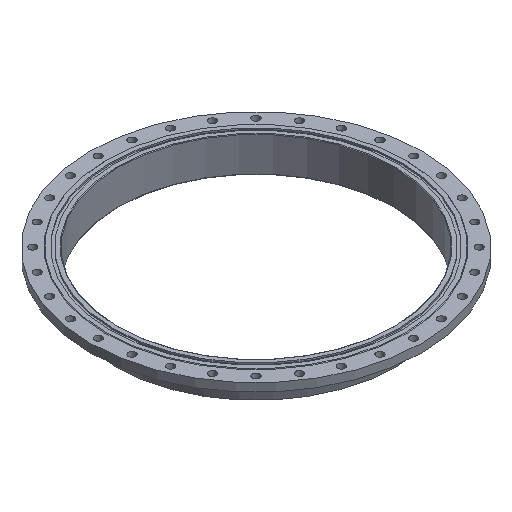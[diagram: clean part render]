
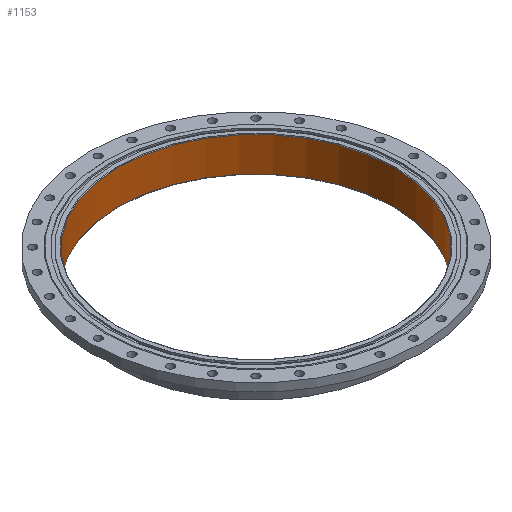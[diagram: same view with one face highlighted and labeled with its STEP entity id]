
A CAD part, isometric view. The second image highlights one B-rep face of the part: STEP entity #1153.
In plain terms, the highlighted cylindrical face has radius 748 mm (diameter 1496 mm), a full revolution.
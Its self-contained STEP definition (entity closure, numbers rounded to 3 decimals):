
#55=LINE('',#2042,#94);
#94=VECTOR('',#1698,748.);
#132=CYLINDRICAL_SURFACE('',#1333,748.);
#243=FACE_OUTER_BOUND('',#325,.T.);
#325=EDGE_LOOP('',(#1038,#1039,#1040,#1041,#1042));
#480=CIRCLE('',#1332,748.);
#481=CIRCLE('',#1334,748.);
#482=CIRCLE('',#1335,748.);
#604=VERTEX_POINT('',#2035);
#605=VERTEX_POINT('',#2039);
#606=VERTEX_POINT('',#2040);
#763=EDGE_CURVE('',#604,#604,#480,.T.);
#764=EDGE_CURVE('',#605,#606,#481,.T.);
#765=EDGE_CURVE('',#606,#604,#55,.T.);
#766=EDGE_CURVE('',#606,#605,#482,.T.);
#1038=ORIENTED_EDGE('',*,*,#764,.T.);
#1039=ORIENTED_EDGE('',*,*,#765,.T.);
#1040=ORIENTED_EDGE('',*,*,#763,.F.);
#1041=ORIENTED_EDGE('',*,*,#765,.F.);
#1042=ORIENTED_EDGE('',*,*,#766,.T.);
#1153=ADVANCED_FACE('',(#243),#132,.F.);
#1332=AXIS2_PLACEMENT_3D('',#2037,#1692,#1693);
#1333=AXIS2_PLACEMENT_3D('',#2038,#1694,#1695);
#1334=AXIS2_PLACEMENT_3D('',#2041,#1696,#1697);
#1335=AXIS2_PLACEMENT_3D('',#2043,#1699,#1700);
#1692=DIRECTION('center_axis',(0.,0.,-1.));
#1693=DIRECTION('ref_axis',(-1.,0.,0.));
#1694=DIRECTION('center_axis',(0.,0.,-1.));
#1695=DIRECTION('ref_axis',(-1.,0.,0.));
#1696=DIRECTION('center_axis',(0.,0.,-1.));
#1697=DIRECTION('ref_axis',(1.,0.,0.));
#1698=DIRECTION('',(0.,0.,1.));
#1699=DIRECTION('center_axis',(0.,0.,-1.));
#1700=DIRECTION('ref_axis',(1.,0.,0.));
#2035=CARTESIAN_POINT('',(748.,0.,-3.));
#2037=CARTESIAN_POINT('Origin',(0.,0.,-3.));
#2038=CARTESIAN_POINT('Origin',(0.,0.,0.));
#2039=CARTESIAN_POINT('',(-748.,0.,-190.));
#2040=CARTESIAN_POINT('',(748.,0.,-190.));
#2041=CARTESIAN_POINT('Origin',(0.,0.,-190.));
#2042=CARTESIAN_POINT('',(748.,0.,0.));
#2043=CARTESIAN_POINT('Origin',(0.,0.,-190.));
